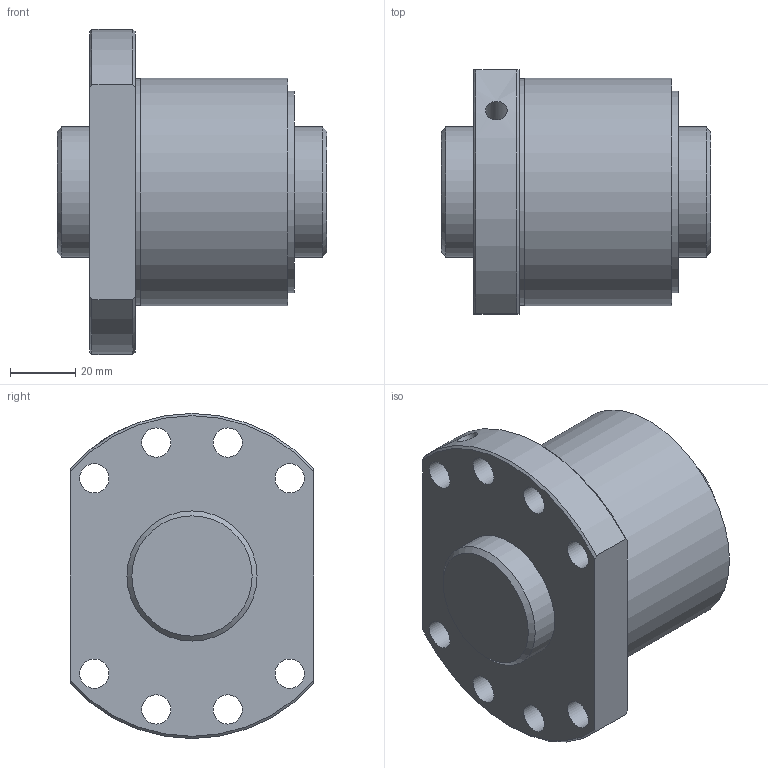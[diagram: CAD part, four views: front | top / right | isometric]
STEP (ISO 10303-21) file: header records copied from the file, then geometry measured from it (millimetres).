
FILE_DESCRIPTION(/* description */ ('STEP AP203'),/* implementation_level */ '2;1');
FILE_NAME(/* name */ 'SDA4010VA-5G0+83LC0(0G000)',/* time_stamp */ '2024-05-28T11:41:59+02:00',/* author */ ('License CC BY-ND 4.0'),/* organization */ ('CADENAS'),/* preprocessor_version */ 'ST-DEVELOPER v19.3',/* originating_system */ 'PARTsolutions',/* authorisation */ ' ');
FILE_SCHEMA (('CONFIG_CONTROL_DESIGN'));
Length unit declared in the file: millimetre
Products named in the file (3): SDA4010VA-5G0+83LC0(0G000); 000SDA4010VA-50Shaft; SDA-V serieSDA4010VA-5nut
Assembly tree (2 placements, depth 2):
  SDA4010VA-5G0+83LC0(0G000)
    000SDA4010VA-50Shaft
    SDA-V serieSDA4010VA-5nut
Bounding box: 83 x 75 x 100 mm (x, y, z)
Volume: 297671.1 mm3; surface area: 49140.2 mm2
Topology: 2 solids, 2 shells, 33 faces, 75 edges, 49 vertices
Faces by surface type: cylinder 17, plane 9, cone 7
Full cylindrical faces by diameter (mm): 5.2 x1, 6.647 x1, 9 x8, 40 x2, 62 x1, 69.6 x1, 70 x1
Entity records: 983 total; most frequent: CARTESIAN_POINT 184, DIRECTION 156, ORIENTED_EDGE 112, EDGE_LOOP 74, FACE_BOUND 74, AXIS2_PLACEMENT_3D 74, EDGE_CURVE 56, VERTEX_POINT 48
